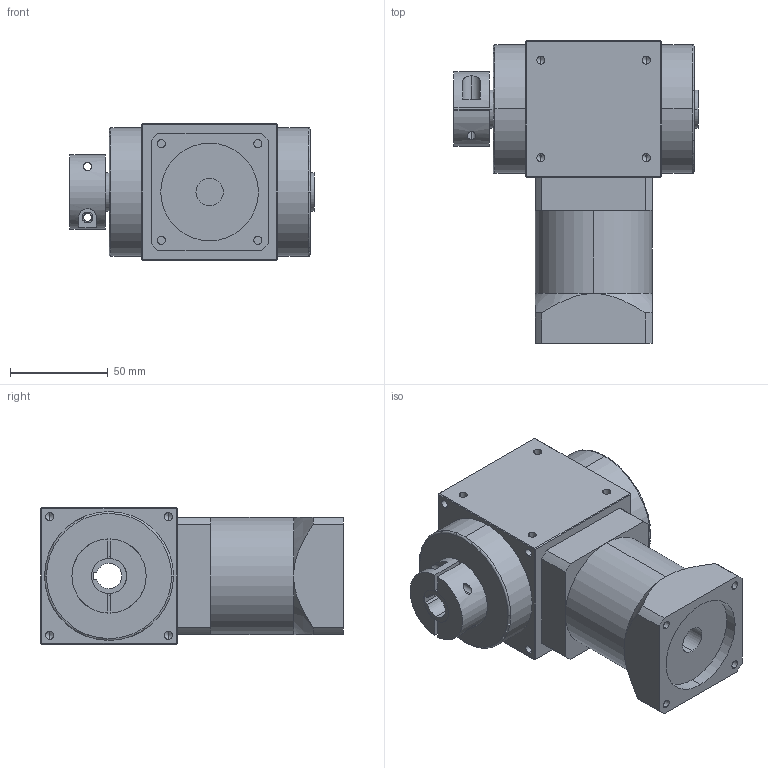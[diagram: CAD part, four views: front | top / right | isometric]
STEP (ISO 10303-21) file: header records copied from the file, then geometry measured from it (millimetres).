
FILE_DESCRIPTION (( 'STEP AP214' ), '1' );
FILE_NAME ('PAW070A-L1-C-K(3-10) 14-50-70-M5.STEP', '2020-12-04T09:29:03', ( '微软用户' ), ( '微软中国' ), 'SwSTEP 2.0', 'SolidWorks 2014', '' );
FILE_SCHEMA (( 'AUTOMOTIVE_DESIGN' ));
Length unit declared in the file: millimetre
Products named in the file (2): PAW070A-L1-C-K(3-10) 14-50-70-M5
Bounding box: 125 x 155 x 70 mm (x, y, z)
Volume: 704817.1 mm3; surface area: 80158.7 mm2
Topology: 4 solids, 4 shells, 226 faces, 540 edges, 308 vertices
Faces by surface type: cylinder 109, plane 69, cone 44, torus 4
Entity records: 10284 total; most frequent: CARTESIAN_POINT 2676, DIRECTION 1094, ORIENTED_EDGE 1000, EDGE_CURVE 500, AXIS2_PLACEMENT_3D 422, VERTEX_POINT 308, EDGE_LOOP 270, LINE 250
